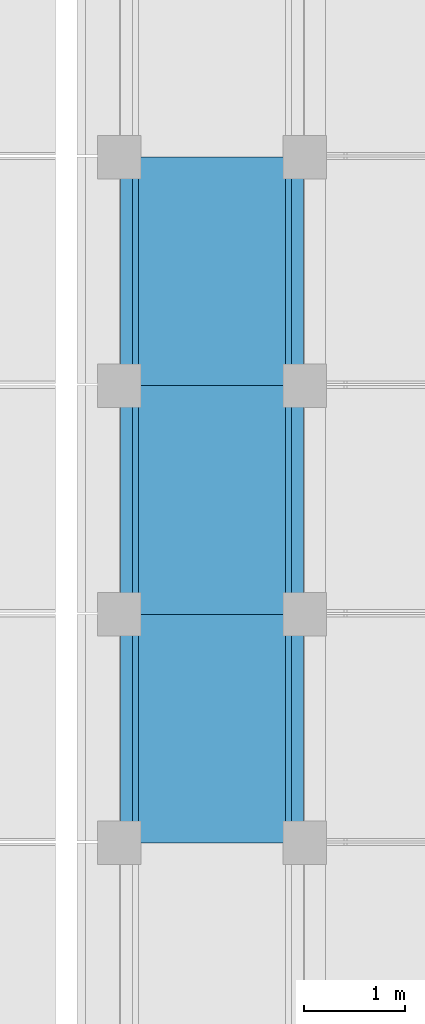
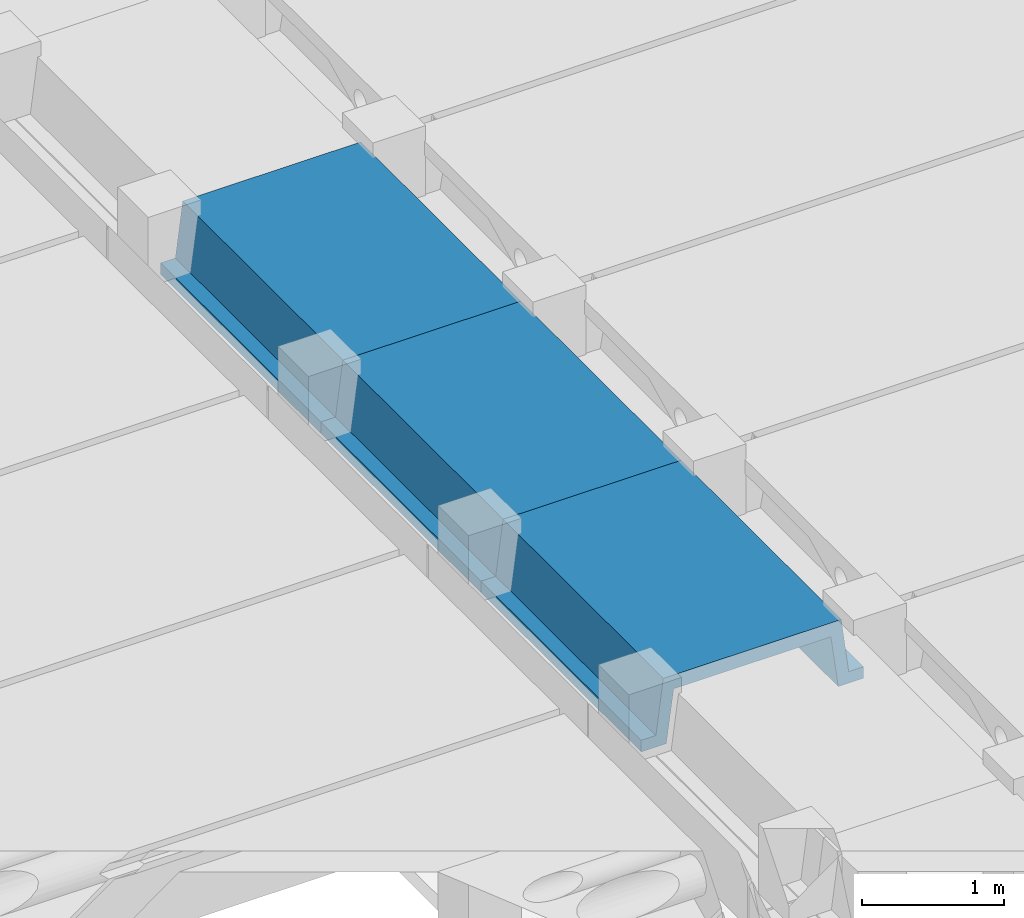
# One storey, part 9 of 25: 3 beams.
"""IFC2X3 building model written with IfcOpenShell, lengths in millimetres."""

import ifcopenshell
import ifcopenshell.guid

model = None  # the IFC model being written
_history = None  # IfcOwnerHistory: only IFC2X3 demands one
_inside = {}  # id of a spatial element -> (the spatial element, [elements in it])
_under = {}  # id of a project, library or spatial element -> (it, [spatial elements below it])
_declared = {}  # id of a project -> (the project, [libraries it declares])
_typed = {}  # id of a type object -> (the type object, [elements of that type])
_made_of = {}  # id of a material, layer set ... -> (it, [elements and type objects made of it])


def new_model(schema):
    """Start an empty IFC model of exactly this schema.

    Asked for "IFC4X3", IfcOpenShell would pick the latest addendum, in which some entities
    have other attributes; the version numbers below select the first issue.
    IFC2X3 requires an IfcOwnerHistory on every rooted entity: one is made here for all.
    """
    global model, _history
    if schema == "IFC4X3":
        model = ifcopenshell.file(schema_version=(4, 3, 0, 0))
    else:
        model = ifcopenshell.file(schema=schema)
    _inside.clear()
    _under.clear()
    _declared.clear()
    _typed.clear()
    _made_of.clear()
    _history = None
    if model.schema == "IFC2X3":
        org = make("IfcOrganization", Name="unknown")
        user = make(
            "IfcPersonAndOrganization",
            ThePerson=make("IfcPerson", FamilyName="unknown"),
            TheOrganization=org,
        )
        app = make(
            "IfcApplication",
            ApplicationDeveloper=org,
            Version="unknown",
            ApplicationFullName="unknown",
            ApplicationIdentifier="unknown",
        )
        _history = make(
            "IfcOwnerHistory",
            OwningUser=user,
            OwningApplication=app,
            ChangeAction="ADDED",
            CreationDate=0,
        )
    return model


def make(cls, **values):
    """One entity of the class cls with the attributes given. An attribute that is None is left unset."""
    return model.create_entity(
        cls, **{name: value for name, value in values.items() if value is not None}
    )


def entity(cls, *values):
    """Any entity or typed value of the class cls, its attributes in the order of the schema. None: left unset."""
    e = model.create_entity(cls)
    for i, value in enumerate(values):
        if value is not None:
            e[i] = value
    return e


def rooted(cls, **values):
    """An entity with a GlobalId (a new one), such as an element, a storey or a relation."""
    return make(cls, GlobalId=ifcopenshell.guid.new(), OwnerHistory=_history, **values)


def si_unit(unit_type, name, prefix=None):
    """IfcSIUnit, for example si_unit("LENGTHUNIT", "METRE", prefix="MILLI")."""
    return make("IfcSIUnit", UnitType=unit_type, Prefix=prefix, Name=name)


def converted_unit(unit_type, name, factor, base, dimensions=None, offset=None):
    """IfcConversionBasedUnit, such as the inch: factor (a typed value) times the base unit."""
    return make(
        "IfcConversionBasedUnit"
        if offset is None
        else "IfcConversionBasedUnitWithOffset",
        ConversionOffset=offset,
        Dimensions=None
        if dimensions is None
        else entity("IfcDimensionalExponents", *dimensions),
        UnitType=unit_type,
        Name=name,
        ConversionFactor=make(
            "IfcMeasureWithUnit", ValueComponent=factor, UnitComponent=base
        ),
    )


def derived_unit(unit_type, elements):
    """IfcDerivedUnit: a product of units, each with its exponent."""
    return make(
        "IfcDerivedUnit",
        Elements=[
            make("IfcDerivedUnitElement", Unit=unit, Exponent=power)
            for unit, power in elements
        ],
        UnitType=unit_type,
    )


def assignment(units):
    """IfcUnitAssignment: the units of a project."""
    return None if units is None else make("IfcUnitAssignment", Units=units)


def point(xyz):
    """IfcCartesianPoint."""
    return None if xyz is None else make("IfcCartesianPoint", Coordinates=xyz)


def direction(xyz):
    """IfcDirection."""
    return None if xyz is None else make("IfcDirection", DirectionRatios=xyz)


def frame(location, z_axis=None, x_axis=None):
    """IfcAxis2Placement3D, a coordinate frame: its origin and axes. An axis left out is left unset."""
    return make(
        "IfcAxis2Placement3D",
        Location=point(location),
        Axis=direction(z_axis),
        RefDirection=direction(x_axis),
    )


def origin():
    """The frame at (0, 0, 0) with its axes left unset."""
    return frame((0.0, 0.0, 0.0))


def place(relative_to, where):
    """IfcLocalPlacement: puts the frame where relative to a parent placement (None: the world)."""
    return make(
        "IfcLocalPlacement", PlacementRelTo=relative_to, RelativePlacement=where
    )


def context(
    kind, dimensions, precision=None, world=None, true_north=None, identifier=None
):
    """IfcGeometricRepresentationContext, for example the 3D "Model" context."""
    return make(
        "IfcGeometricRepresentationContext",
        ContextIdentifier=identifier,
        ContextType=kind,
        CoordinateSpaceDimension=dimensions,
        Precision=precision,
        WorldCoordinateSystem=world,
        TrueNorth=true_north,
    )


def subcontext(parent, identifier, kind, view, scale=None):
    """IfcGeometricRepresentationSubContext, for example "Body" below "Model"."""
    return make(
        "IfcGeometricRepresentationSubContext",
        ContextIdentifier=identifier,
        ContextType=kind,
        ParentContext=parent,
        TargetScale=scale,
        TargetView=view,
    )


def project(units=None, contexts=None):
    """IfcProject with its units and contexts."""
    return rooted(
        "IfcProject",
        Name="project",
        RepresentationContexts=contexts,
        UnitsInContext=assignment(units),
    )


def spatial(cls, under=None, at=None, **own):
    """A site, building, storey or space (cls), placed at a placement, below another one or the project."""
    s = rooted(cls, ObjectPlacement=at, **own)
    if under is not None:
        _under.setdefault(under.id(), (under, []))[1].append(s)
    return s


def polyline(points):
    """IfcPolyline through the points."""
    return make("IfcPolyline", Points=[point(p) for p in points])


def outline(outer, holes=None, kind="AREA"):
    """IfcArbitraryClosedProfileDef: a profile drawn as a closed curve; with holes, ...WithVoids."""
    if holes is None:
        return make("IfcArbitraryClosedProfileDef", ProfileType=kind, OuterCurve=outer)
    return make(
        "IfcArbitraryProfileDefWithVoids",
        ProfileType=kind,
        OuterCurve=outer,
        InnerCurves=holes,
    )


def extrude(swept, where, along, depth):
    """IfcExtrudedAreaSolid: the profile swept, set in the frame where, extruded along a direction by depth."""
    return make(
        "IfcExtrudedAreaSolid",
        SweptArea=swept,
        Position=where,
        ExtrudedDirection=direction(along),
        Depth=depth,
    )


def shape(context_of_items, identifier, shape_type, items):
    """IfcShapeRepresentation: the items that make up one representation, for example the "Body"."""
    return make(
        "IfcShapeRepresentation",
        ContextOfItems=context_of_items,
        RepresentationIdentifier=identifier,
        RepresentationType=shape_type,
        Items=items,
    )


def material(Name=None, Category=None):
    """IfcMaterial."""
    return make("IfcMaterial", Name=Name, Category=Category)


def made_of(thing, what):
    """Note that an element or type object is made of a material, layer set ...; save() writes the relation."""
    if what is not None:
        _made_of.setdefault(what.id(), (what, []))[1].append(thing)
    return thing


def type_object(cls, material=None, **own):
    """A type object (cls), such as IfcWallType, which elements share."""
    return made_of(rooted(cls, **own), material)


def element(
    cls,
    number,
    at=None,
    inside=None,
    cuts=None,
    type_object=None,
    material=None,
    context=None,
    identifier="Body",
    shape_type=None,
    held_by="IfcProductDefinitionShape",
    body=None,
    shapes=None,
    **own,
):
    """One element of the class cls, such as IfcWall. Its Tag is "e" and its number.

    at: its placement. inside: the storey or other place that contains it. cuts: it is an
    opening in that element (IfcRelVoidsElement). A single representation is given by context,
    identifier, shape_type and body (its items); several are given by shapes. held_by: the class
    of the entity that holds the representations. save() writes the other relations.
    """
    e = rooted(cls, Tag="e%d" % number, ObjectPlacement=at, **own)
    if body is not None:
        shapes = [shape(context, identifier, shape_type, body)]
    if shapes is not None:
        e.Representation = make(held_by, Representations=shapes)
    if inside is not None:
        _inside.setdefault(inside.id(), (inside, []))[1].append(e)
    if cuts is not None:
        rooted(
            "IfcRelVoidsElement", RelatingBuildingElement=cuts, RelatedOpeningElement=e
        )
    if type_object is not None:
        _typed.setdefault(type_object.id(), (type_object, []))[1].append(e)
    return made_of(e, material)


def aggregate(whole, parts):
    """IfcRelAggregates: a whole, such as a stair, and the parts it consists of."""
    return rooted("IfcRelAggregates", RelatingObject=whole, RelatedObjects=parts)


def save(model, path):
    """Write the relations noted so far, then the file.

    IfcRelAggregates (storeys below a building ...), IfcRelContainedInSpatialStructure (elements
    in a storey), IfcRelDefinesByType, IfcRelAssociatesMaterial and IfcRelDeclares: one each for
    every whole, place, type object, material and project.
    """
    for whole, parts in _under.values():
        aggregate(whole, parts)
    for where, things in _inside.values():
        rooted(
            "IfcRelContainedInSpatialStructure",
            RelatedElements=things,
            RelatingStructure=where,
        )
    for kind, things in _typed.values():
        rooted("IfcRelDefinesByType", RelatedObjects=things, RelatingType=kind)
    for what, things in _made_of.values():
        rooted("IfcRelAssociatesMaterial", RelatedObjects=things, RelatingMaterial=what)
    for by, libraries in _declared.values():
        rooted("IfcRelDeclares", RelatingContext=by, RelatedDefinitions=libraries)
    model.write(path)


model = new_model("IFC2X3")

# Units and contexts
model_context = context("Model", 3, precision=0.01, world=origin(), true_north=direction((6.12303176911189e-17, 1.0)))
body_context = subcontext(model_context, "Body", "Model", "MODEL_VIEW")
ifc_project = project(units=[si_unit("LENGTHUNIT", "METRE", prefix="MILLI"), si_unit("AREAUNIT", "SQUARE_METRE"), si_unit("VOLUMEUNIT", "CUBIC_METRE"), converted_unit("PLANEANGLEUNIT", "DEGREE", entity("IfcRatioMeasure", 0.0174532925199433), si_unit("PLANEANGLEUNIT", "RADIAN"), dimensions=[0, 0, 0, 0, 0, 0, 0]), si_unit("MASSUNIT", "GRAM", prefix="KILO"), derived_unit("MASSDENSITYUNIT", [(si_unit("MASSUNIT", "GRAM", prefix="KILO"), 1), (si_unit("LENGTHUNIT", "METRE"), -3)]), derived_unit("MOMENTOFINERTIAUNIT", [(si_unit("LENGTHUNIT", "METRE"), 4)]), si_unit("TIMEUNIT", "SECOND"), si_unit("FREQUENCYUNIT", "HERTZ"), si_unit("THERMODYNAMICTEMPERATUREUNIT", "DEGREE_CELSIUS"), derived_unit("THERMALTRANSMITTANCEUNIT", [(si_unit("MASSUNIT", "GRAM", prefix="KILO"), 1), (si_unit("THERMODYNAMICTEMPERATUREUNIT", "KELVIN"), -1), (si_unit("TIMEUNIT", "SECOND"), -3)]), derived_unit("VOLUMETRICFLOWRATEUNIT", [(si_unit("LENGTHUNIT", "METRE"), 3), (si_unit("TIMEUNIT", "SECOND"), -1)]), si_unit("ELECTRICCURRENTUNIT", "AMPERE"), si_unit("ELECTRICVOLTAGEUNIT", "VOLT"), si_unit("POWERUNIT", "WATT"), si_unit("FORCEUNIT", "NEWTON", prefix="KILO"), si_unit("ILLUMINANCEUNIT", "LUX"), si_unit("LUMINOUSFLUXUNIT", "LUMEN"), si_unit("LUMINOUSINTENSITYUNIT", "CANDELA"), derived_unit("USERDEFINED", [(si_unit("MASSUNIT", "GRAM", prefix="KILO"), -1), (si_unit("LENGTHUNIT", "METRE"), -2), (si_unit("TIMEUNIT", "SECOND"), 3), (si_unit("LUMINOUSFLUXUNIT", "LUMEN"), 1)]), derived_unit("LINEARVELOCITYUNIT", [(si_unit("LENGTHUNIT", "METRE"), 1), (si_unit("TIMEUNIT", "SECOND"), -1)]), si_unit("PRESSUREUNIT", "PASCAL"), derived_unit("USERDEFINED", [(si_unit("LENGTHUNIT", "METRE"), -2), (si_unit("MASSUNIT", "GRAM", prefix="KILO"), 1), (si_unit("TIMEUNIT", "SECOND"), -2)]), derived_unit("LINEARFORCEUNIT", [(si_unit("MASSUNIT", "GRAM", prefix="KILO"), 1), (si_unit("LENGTHUNIT", "METRE"), 1), (si_unit("TIMEUNIT", "SECOND"), -2), (si_unit("LENGTHUNIT", "METRE"), -1)]), derived_unit("PLANARFORCEUNIT", [(si_unit("MASSUNIT", "GRAM", prefix="KILO"), 1), (si_unit("LENGTHUNIT", "METRE"), 1), (si_unit("TIMEUNIT", "SECOND"), -2), (si_unit("LENGTHUNIT", "METRE"), -2)])], contexts=[model_context])

# Site, building, storey
site_placement = place(None, frame((10627.5135316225, 21939.0796949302, 0.0)))
site = spatial("IfcSite", under=ifc_project, at=site_placement, Name="Default", CompositionType="ELEMENT")
building_placement = place(site_placement, origin())
building = spatial("IfcBuilding", under=site, at=building_placement, CompositionType="ELEMENT")
storey_placement = place(building_placement, origin())
storey = spatial("IfcBuildingStorey", under=building, at=storey_placement, Name="RDC", CompositionType="ELEMENT", Elevation=0.0)

# Beams
ifc_material = material(Name="Concrete, Precast Smooth, Light Grey")
beam_type = type_object("IfcBeamType", Name="Poutre petite:Poutre petite", PredefinedType="NOTDEFINED")
for number, where, z_axis, x_axis, name in (
    (1, (667.48646837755, 7440.92030506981, 3530.0), (0.0, 0.0, 1.0), (0.0, 1.0, 0.0), "Poutre petite:Poutre petite"),
    (2, (667.48646837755, 5180.92030506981, 3530.0), (0.0, 0.0, 1.0), (0.0, 1.0, 0.0), "Poutre petite:Poutre petite"),
    (3, (667.48646837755, 2920.92030506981, 3530.0), (0.0, 0.0, 1.0), (0.0, 1.0, 0.0), "Poutre petite:Poutre petite"),
):
    element("IfcBeam", number, at=place(storey_placement, frame(where, z_axis=z_axis, x_axis=x_axis)), inside=storey, type_object=beam_type, material=ifc_material, Name=name, ObjectType="Poutre petite:Poutre petite", context=body_context, shape_type="SweptSolid", body=[
        extrude(outline(polyline([(103.333217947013, -905.013684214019), (203.333564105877, -905.013684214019), (203.333564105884, -700.013730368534), (-246.666782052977, -640.013684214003), (-246.666782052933, 640.013497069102), (203.333564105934, 700.013543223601), (203.333564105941, 905.014058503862), (103.333217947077, 905.014058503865), (103.333217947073, 785.01349706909), (-366.666782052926, 725.013497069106), (-366.666782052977, -725.013684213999), (103.333217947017, -785.013684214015), (103.333217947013, -905.013684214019)])), frame((0.0, -0.000187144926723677, -366.666782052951), z_axis=(1.0, 0.0, 0.0), x_axis=(0.0, 0.0, -1.0)), (0.0, 0.0, 1.0), 2260.0),
    ])

save(model, "model.ifc")
